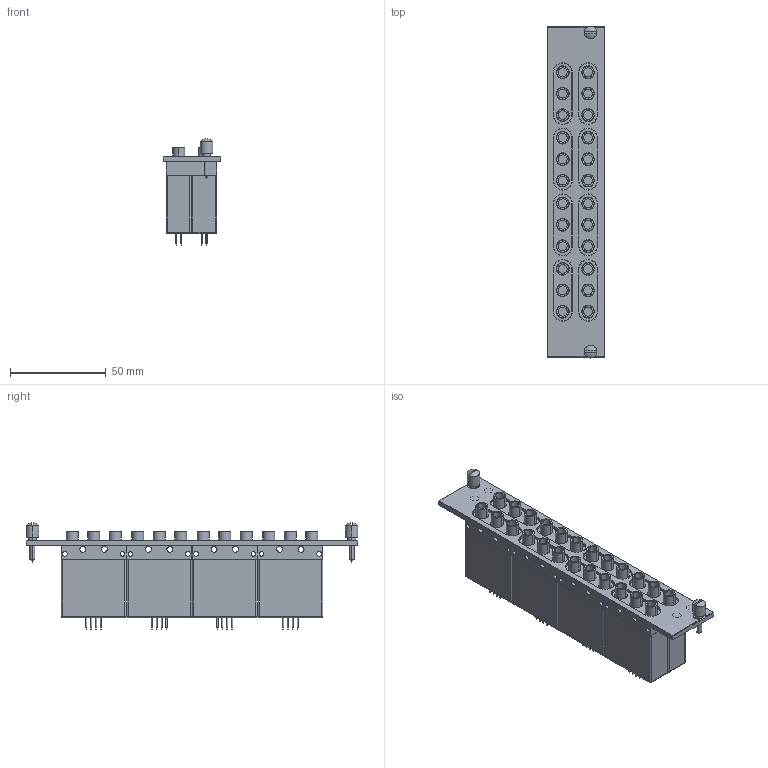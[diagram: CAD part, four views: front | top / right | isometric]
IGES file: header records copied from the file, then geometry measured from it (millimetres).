
Start section:  PTC IGES file: cu_scxi-1192.igs
Global section: file name: cu_scxi-1192.igs; native system: Pro/ENGINEER by Parametric Technology Corporation; preprocessor: 2010230; author: jjorden; organization: Unknown; date: 20110815.152338; units: inch
Bounding box: 30.18 x 173.48 x 55.56 mm (x, y, z)
Surface area: 48823.3 mm2 (no closed solid volume)
Topology: 0 solids, 0 shells, 969 faces, 4196 edges, 4192 vertices
Faces by surface type: revolution 650, bspline 319
